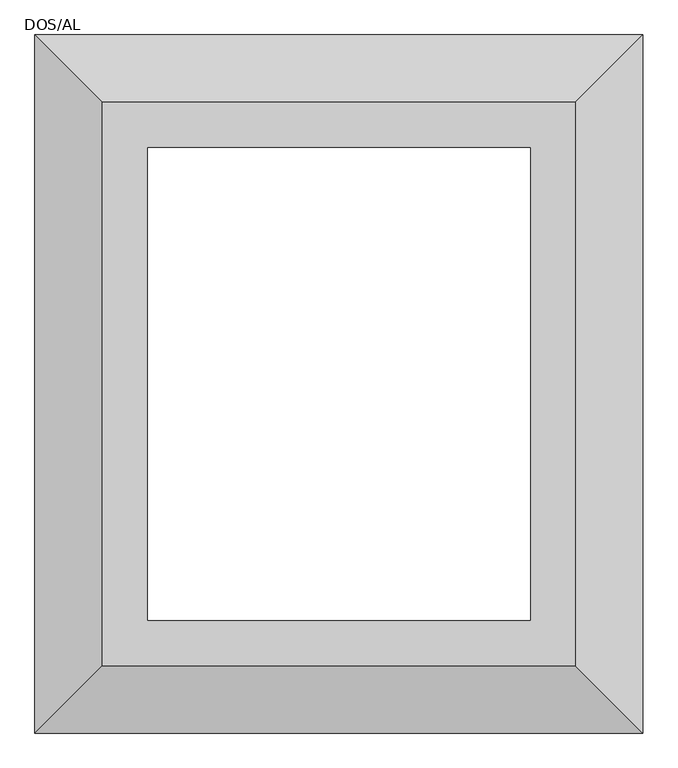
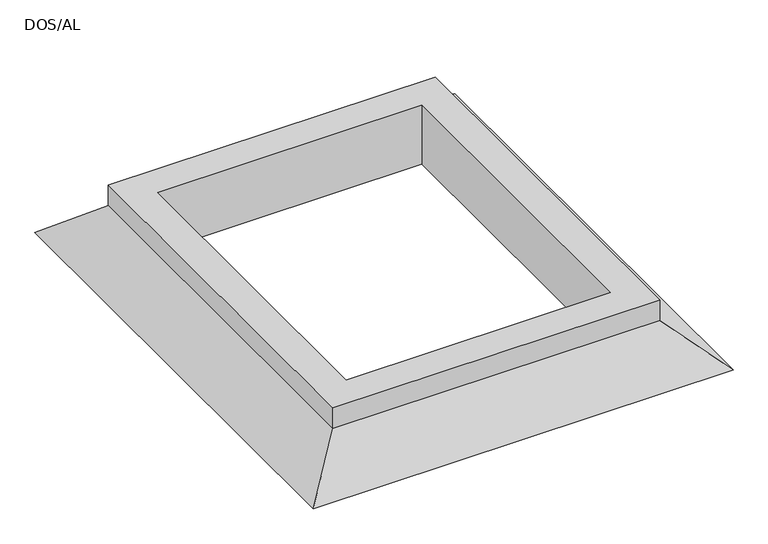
"""IFC4 building model written with IfcOpenShell, lengths in millimetres: duct fitting geometry, DUF_FB_Roof mounting DOS-AL_SH_SMA : DOS/AL."""

import ifcopenshell
import ifcopenshell.guid

model = None  # the IFC model being written
_history = None  # IfcOwnerHistory: only IFC2X3 demands one
_inside = {}  # id of a spatial element -> (the spatial element, [elements in it])
_under = {}  # id of a project, library or spatial element -> (it, [spatial elements below it])
_declared = {}  # id of a project -> (the project, [libraries it declares])
_typed = {}  # id of a type object -> (the type object, [elements of that type])
_made_of = {}  # id of a material, layer set ... -> (it, [elements and type objects made of it])


def new_model(schema):
    """Start an empty IFC model of exactly this schema.

    Asked for "IFC4X3", IfcOpenShell would pick the latest addendum, in which some entities
    have other attributes; the version numbers below select the first issue.
    IFC2X3 requires an IfcOwnerHistory on every rooted entity: one is made here for all.
    """
    global model, _history
    if schema == "IFC4X3":
        model = ifcopenshell.file(schema_version=(4, 3, 0, 0))
    else:
        model = ifcopenshell.file(schema=schema)
    _inside.clear()
    _under.clear()
    _declared.clear()
    _typed.clear()
    _made_of.clear()
    _history = None
    if model.schema == "IFC2X3":
        org = make("IfcOrganization", Name="unknown")
        user = make(
            "IfcPersonAndOrganization",
            ThePerson=make("IfcPerson", FamilyName="unknown"),
            TheOrganization=org,
        )
        app = make(
            "IfcApplication",
            ApplicationDeveloper=org,
            Version="unknown",
            ApplicationFullName="unknown",
            ApplicationIdentifier="unknown",
        )
        _history = make(
            "IfcOwnerHistory",
            OwningUser=user,
            OwningApplication=app,
            ChangeAction="ADDED",
            CreationDate=0,
        )
    return model


def make(cls, **values):
    """One entity of the class cls with the attributes given. An attribute that is None is left unset."""
    return model.create_entity(
        cls, **{name: value for name, value in values.items() if value is not None}
    )


def rooted(cls, **values):
    """An entity with a GlobalId (a new one), such as an element, a storey or a relation."""
    return make(cls, GlobalId=ifcopenshell.guid.new(), OwnerHistory=_history, **values)


def si_unit(unit_type, name, prefix=None):
    """IfcSIUnit, for example si_unit("LENGTHUNIT", "METRE", prefix="MILLI")."""
    return make("IfcSIUnit", UnitType=unit_type, Prefix=prefix, Name=name)


def assignment(units):
    """IfcUnitAssignment: the units of a project."""
    return None if units is None else make("IfcUnitAssignment", Units=units)


def point(xyz):
    """IfcCartesianPoint."""
    return None if xyz is None else make("IfcCartesianPoint", Coordinates=xyz)


def direction(xyz):
    """IfcDirection."""
    return None if xyz is None else make("IfcDirection", DirectionRatios=xyz)


def frame(location, z_axis=None, x_axis=None):
    """IfcAxis2Placement3D, a coordinate frame: its origin and axes. An axis left out is left unset."""
    return make(
        "IfcAxis2Placement3D",
        Location=point(location),
        Axis=direction(z_axis),
        RefDirection=direction(x_axis),
    )


def origin():
    """The frame at (0, 0, 0) with its axes left unset."""
    return frame((0.0, 0.0, 0.0))


def place(relative_to, where):
    """IfcLocalPlacement: puts the frame where relative to a parent placement (None: the world)."""
    return make(
        "IfcLocalPlacement", PlacementRelTo=relative_to, RelativePlacement=where
    )


def context(
    kind, dimensions, precision=None, world=None, true_north=None, identifier=None
):
    """IfcGeometricRepresentationContext, for example the 3D "Model" context."""
    return make(
        "IfcGeometricRepresentationContext",
        ContextIdentifier=identifier,
        ContextType=kind,
        CoordinateSpaceDimension=dimensions,
        Precision=precision,
        WorldCoordinateSystem=world,
        TrueNorth=true_north,
    )


def project(units=None, contexts=None):
    """IfcProject with its units and contexts."""
    return rooted(
        "IfcProject",
        Name="project",
        RepresentationContexts=contexts,
        UnitsInContext=assignment(units),
    )


def spatial(cls, under=None, at=None, **own):
    """A site, building, storey or space (cls), placed at a placement, below another one or the project."""
    s = rooted(cls, ObjectPlacement=at, **own)
    if under is not None:
        _under.setdefault(under.id(), (under, []))[1].append(s)
    return s


def faces_of(points, faces, orient=None, outer=None):
    """IfcFace entities. A face is a list of loops; a loop is a list of indices into points, from 0.

    orient and outer hold one flag for each loop. By default every Orientation is true, the
    first loop of a face is its IfcFaceOuterBound and the others are IfcFaceBound.
    """
    made = []
    for i, loops in enumerate(faces):
        bounds = []
        for j, loop in enumerate(loops):
            is_outer = j == 0 if outer is None else outer[i][j]
            bounds.append(
                make(
                    "IfcFaceOuterBound" if is_outer else "IfcFaceBound",
                    Bound=make("IfcPolyLoop", Polygon=[points[k] for k in loop]),
                    Orientation=True if orient is None else orient[i][j],
                )
            )
        made.append(make("IfcFace", Bounds=bounds))
    return made


def faceted_brep(points, faces, orient=None, outer=None, voids=None):
    """IfcFacetedBrep: a solid bounded by flat faces; with voids (closed shells), ...WithVoids."""
    shared = [point(p) for p in points]
    hull = make("IfcClosedShell", CfsFaces=faces_of(shared, faces, orient, outer))
    if voids is None:
        return make("IfcFacetedBrep", Outer=hull)
    return make(
        "IfcFacetedBrepWithVoids",
        Outer=hull,
        Voids=[
            make(cls, CfsFaces=faces_of(shared, fs, o, b)) for cls, fs, o, b in voids
        ],
    )


def shape(context_of_items, identifier, shape_type, items):
    """IfcShapeRepresentation: the items that make up one representation, for example the "Body"."""
    return make(
        "IfcShapeRepresentation",
        ContextOfItems=context_of_items,
        RepresentationIdentifier=identifier,
        RepresentationType=shape_type,
        Items=items,
    )


def source(mapping_origin, context_of_items, identifier, shape_type, items):
    """IfcRepresentationMap: a shape defined once, which mapped items show again and again."""
    return make(
        "IfcRepresentationMap",
        MappingOrigin=mapping_origin,
        MappedRepresentation=shape(context_of_items, identifier, shape_type, items),
    )


def transform(
    local_origin,
    x_axis=None,
    y_axis=None,
    z_axis=None,
    scale=None,
    scale2=None,
    scale3=None,
    uniform=True,
):
    """IfcCartesianTransformationOperator3D, or its non-uniform kind. x_axis, y_axis, z_axis: its Axis1, 2, 3."""
    if uniform:
        return make(
            "IfcCartesianTransformationOperator3D",
            Axis1=direction(x_axis),
            Axis2=direction(y_axis),
            LocalOrigin=point(local_origin),
            Scale=scale,
            Axis3=direction(z_axis),
        )
    return make(
        "IfcCartesianTransformationOperator3DnonUniform",
        Axis1=direction(x_axis),
        Axis2=direction(y_axis),
        LocalOrigin=point(local_origin),
        Scale=scale,
        Axis3=direction(z_axis),
        Scale2=scale2,
        Scale3=scale3,
    )


def mapped(mapping_source, mapping_target):
    """IfcMappedItem: shows the shape of a source again, moved by a transform."""
    return make(
        "IfcMappedItem", MappingSource=mapping_source, MappingTarget=mapping_target
    )


def made_of(thing, what):
    """Note that an element or type object is made of a material, layer set ...; save() writes the relation."""
    if what is not None:
        _made_of.setdefault(what.id(), (what, []))[1].append(thing)
    return thing


def element(
    cls,
    number,
    at=None,
    inside=None,
    cuts=None,
    type_object=None,
    material=None,
    context=None,
    identifier="Body",
    shape_type=None,
    held_by="IfcProductDefinitionShape",
    body=None,
    shapes=None,
    **own,
):
    """One element of the class cls, such as IfcWall. Its Tag is "e" and its number.

    at: its placement. inside: the storey or other place that contains it. cuts: it is an
    opening in that element (IfcRelVoidsElement). A single representation is given by context,
    identifier, shape_type and body (its items); several are given by shapes. held_by: the class
    of the entity that holds the representations. save() writes the other relations.
    """
    e = rooted(cls, Tag="e%d" % number, ObjectPlacement=at, **own)
    if body is not None:
        shapes = [shape(context, identifier, shape_type, body)]
    if shapes is not None:
        e.Representation = make(held_by, Representations=shapes)
    if inside is not None:
        _inside.setdefault(inside.id(), (inside, []))[1].append(e)
    if cuts is not None:
        rooted(
            "IfcRelVoidsElement", RelatingBuildingElement=cuts, RelatedOpeningElement=e
        )
    if type_object is not None:
        _typed.setdefault(type_object.id(), (type_object, []))[1].append(e)
    return made_of(e, material)


def aggregate(whole, parts):
    """IfcRelAggregates: a whole, such as a stair, and the parts it consists of."""
    return rooted("IfcRelAggregates", RelatingObject=whole, RelatedObjects=parts)


def save(model, path):
    """Write the relations noted so far, then the file.

    IfcRelAggregates (storeys below a building ...), IfcRelContainedInSpatialStructure (elements
    in a storey), IfcRelDefinesByType, IfcRelAssociatesMaterial and IfcRelDeclares: one each for
    every whole, place, type object, material and project.
    """
    for whole, parts in _under.values():
        aggregate(whole, parts)
    for where, things in _inside.values():
        rooted(
            "IfcRelContainedInSpatialStructure",
            RelatedElements=things,
            RelatingStructure=where,
        )
    for kind, things in _typed.values():
        rooted("IfcRelDefinesByType", RelatedObjects=things, RelatingType=kind)
    for what, things in _made_of.values():
        rooted("IfcRelAssociatesMaterial", RelatedObjects=things, RelatingMaterial=what)
    for by, libraries in _declared.values():
        rooted("IfcRelDeclares", RelatingContext=by, RelatedDefinitions=libraries)
    model.write(path)


def dos_al_068ffbaa(model_context):
    return source(origin(), model_context, "Body", "Brep", [
        faceted_brep([(425.0, 525.0, 200.0), (425.0, 525.0, 0.0), (425.0, -525.0, 0.0), (425.0, -525.0, 200.0), (525.0, 625.0, 130.0), (525.0, 625.0, 200.0), (525.0, -625.0, 200.0), (525.0, -625.0, 130.0), (675.0, 775.0, 0.0), (675.0, -775.0, 0.0), (-425.0, -525.0, 0.0), (-425.0, -525.0, 200.0), (-525.0, -625.0, 200.0), (-525.0, -625.0, 130.0), (-675.0, -775.0, 0.0), (-425.0, 525.0, 0.0), (-425.0, 525.0, 200.0), (-525.0, 625.0, 200.0), (-525.0, 625.0, 130.0), (-675.0, 775.0, 0.0)], [[[0, 1, 2, 3]], [[4, 5, 6, 7]], [[8, 4, 7, 9]], [[3, 2, 10, 11]], [[7, 6, 12, 13]], [[9, 7, 13, 14]], [[11, 10, 15, 16]], [[13, 12, 17, 18]], [[14, 13, 18, 19]], [[9, 14, 19, 8], [1, 15, 10, 2]], [[16, 15, 1, 0]], [[5, 17, 12, 6], [3, 11, 16, 0]], [[18, 17, 5, 4]], [[19, 18, 4, 8]]]),
    ])


if __name__ == "__main__":
    model = new_model("IFC4")
    model_context = context("Model", 3, world=origin())
    ifc_project = project(units=[si_unit("LENGTHUNIT", "METRE", prefix="MILLI")], contexts=[model_context])
    site = spatial("IfcSite", under=ifc_project)
    building = spatial("IfcBuilding", under=site)
    placement = place(None, origin())
    dos_al_shape = dos_al_068ffbaa(model_context)
    element("IfcDuctFitting", 1, ObjectType="DUF_FB_Roof mounting DOS-AL_SH_SMA : DOS/AL", at=placement, inside=building, context=model_context, shape_type="MappedRepresentation", body=[
        mapped(dos_al_shape, transform((0.0, 0.0, 0.0), x_axis=(1.0, 0.0, 0.0), y_axis=(0.0, 1.0, 0.0), z_axis=(0.0, 0.0, 1.0))),
    ])
    save(model, "model.ifc")
